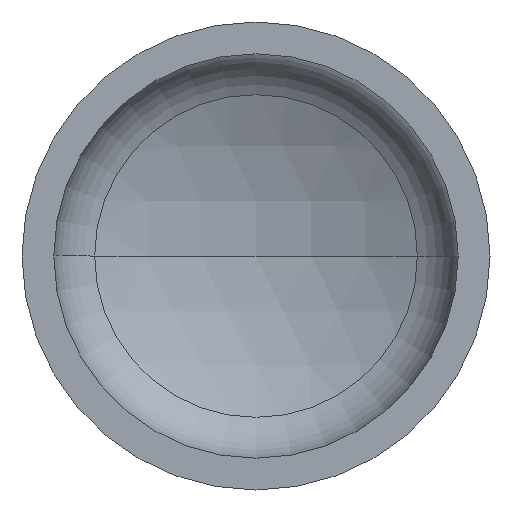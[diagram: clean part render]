
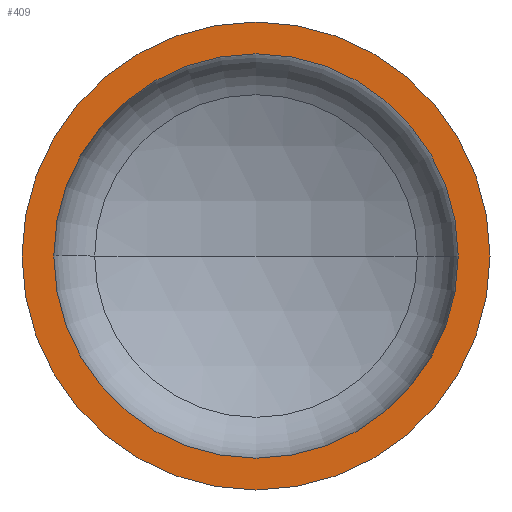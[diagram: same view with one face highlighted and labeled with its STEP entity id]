
A CAD part, front view. The second image highlights one B-rep face of the part: STEP entity #409.
In plain terms, the highlighted planar face has unit normal (0, -1, 0).
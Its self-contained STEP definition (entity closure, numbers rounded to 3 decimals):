
#5 = VERTEX_POINT ( 'NONE', #214 ) ;
#15 = AXIS2_PLACEMENT_3D ( 'NONE', #93, #290, #148 ) ;
#31 = CARTESIAN_POINT ( 'NONE',  ( -750., 0., 0. ) ) ;
#32 = ORIENTED_EDGE ( 'NONE', *, *, #332, .F. ) ;
#38 = DIRECTION ( 'NONE',  ( 1., 0., 0. ) ) ;
#40 = DIRECTION ( 'NONE',  ( 0., -1., 0. ) ) ;
#52 = AXIS2_PLACEMENT_3D ( 'NONE', #362, #217, #389 ) ;
#55 = AXIS2_PLACEMENT_3D ( 'NONE', #163, #40, #38 ) ;
#58 = AXIS2_PLACEMENT_3D ( 'NONE', #191, #231, #218 ) ;
#63 = CIRCLE ( 'NONE', #58, 750. ) ;
#65 = EDGE_CURVE ( 'NONE', #125, #114, #63, .T. ) ;
#70 = EDGE_CURVE ( 'NONE', #114, #125, #288, .T. ) ;
#85 = ORIENTED_EDGE ( 'NONE', *, *, #70, .T. ) ;
#93 = CARTESIAN_POINT ( 'NONE',  ( 0., 0., 0. ) ) ;
#114 = VERTEX_POINT ( 'NONE', #31 ) ;
#122 = ORIENTED_EDGE ( 'NONE', *, *, #65, .T. ) ;
#125 = VERTEX_POINT ( 'NONE', #324 ) ;
#138 = EDGE_LOOP ( 'NONE', ( #122, #85 ) ) ;
#141 = ORIENTED_EDGE ( 'NONE', *, *, #273, .F. ) ;
#148 = DIRECTION ( 'NONE',  ( 1., 0., 0. ) ) ;
#154 = CARTESIAN_POINT ( 'NONE',  ( -750., 0., 0. ) ) ;
#163 = CARTESIAN_POINT ( 'NONE',  ( 0., 0., 0. ) ) ;
#167 = EDGE_LOOP ( 'NONE', ( #32, #141 ) ) ;
#187 = CIRCLE ( 'NONE', #15, 648. ) ;
#191 = CARTESIAN_POINT ( 'NONE',  ( 0., 0., 0. ) ) ;
#214 = CARTESIAN_POINT ( 'NONE',  ( 648., 0., 0. ) ) ;
#217 = DIRECTION ( 'NONE',  ( 0., -1., 0. ) ) ;
#218 = DIRECTION ( 'NONE',  ( 1., 0., 0. ) ) ;
#227 = DIRECTION ( 'NONE',  ( -1., 0., 0. ) ) ;
#231 = DIRECTION ( 'NONE',  ( 0., -1., 0. ) ) ;
#251 = CARTESIAN_POINT ( 'NONE',  ( -648., 0., 0. ) ) ;
#265 = CIRCLE ( 'NONE', #52, 648. ) ;
#273 = EDGE_CURVE ( 'NONE', #376, #5, #265, .T. ) ;
#281 = FACE_OUTER_BOUND ( 'NONE', #138, .T. ) ;
#288 = CIRCLE ( 'NONE', #55, 750. ) ;
#290 = DIRECTION ( 'NONE',  ( 0., -1., 0. ) ) ;
#324 = CARTESIAN_POINT ( 'NONE',  ( 750., 0., 0. ) ) ;
#332 = EDGE_CURVE ( 'NONE', #5, #376, #187, .T. ) ;
#346 = PLANE ( 'NONE',  #385 ) ;
#362 = CARTESIAN_POINT ( 'NONE',  ( 0., 0., 0. ) ) ;
#373 = DIRECTION ( 'NONE',  ( 0., 1., 0. ) ) ;
#376 = VERTEX_POINT ( 'NONE', #251 ) ;
#385 = AXIS2_PLACEMENT_3D ( 'NONE', #154, #373, #227 ) ;
#389 = DIRECTION ( 'NONE',  ( 1., 0., 0. ) ) ;
#402 = FACE_BOUND ( 'NONE', #167, .T. ) ;
#409 = ADVANCED_FACE ( 'NONE', ( #402, #281 ), #346, .F. ) ;
